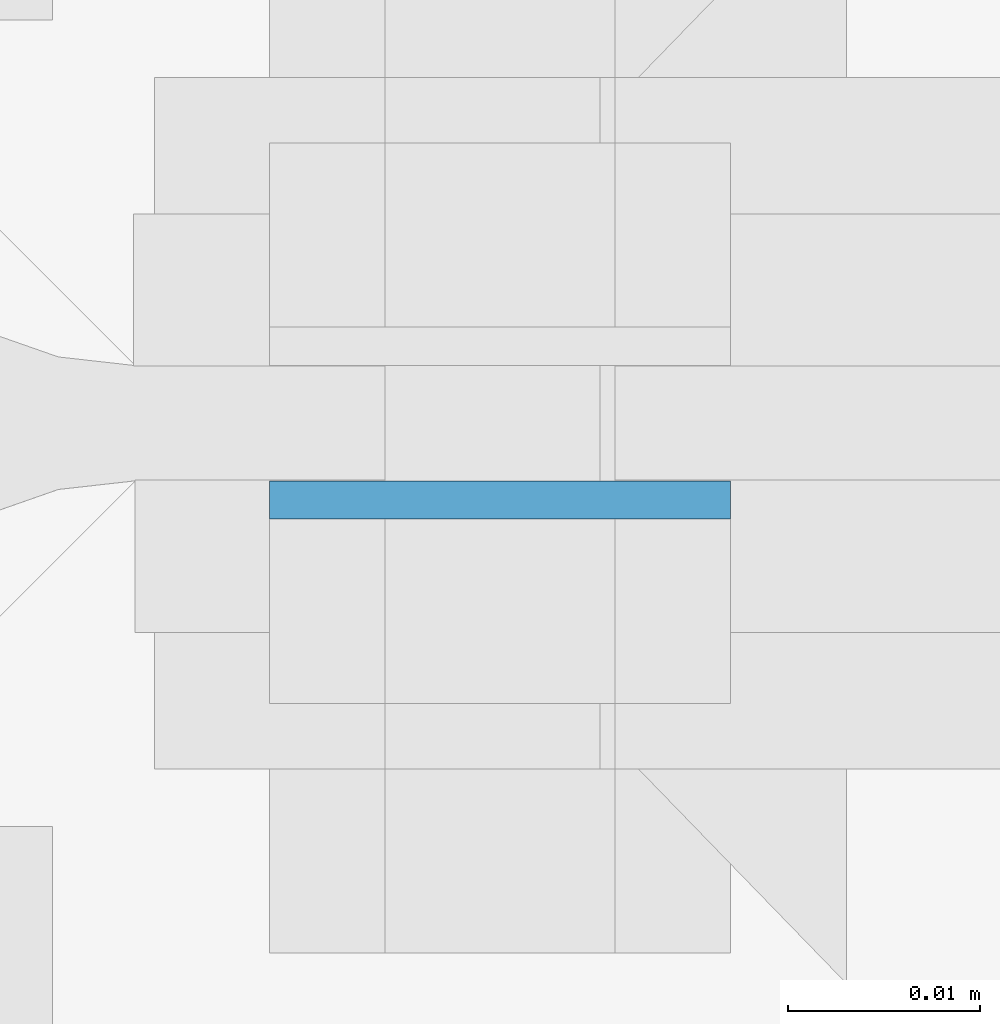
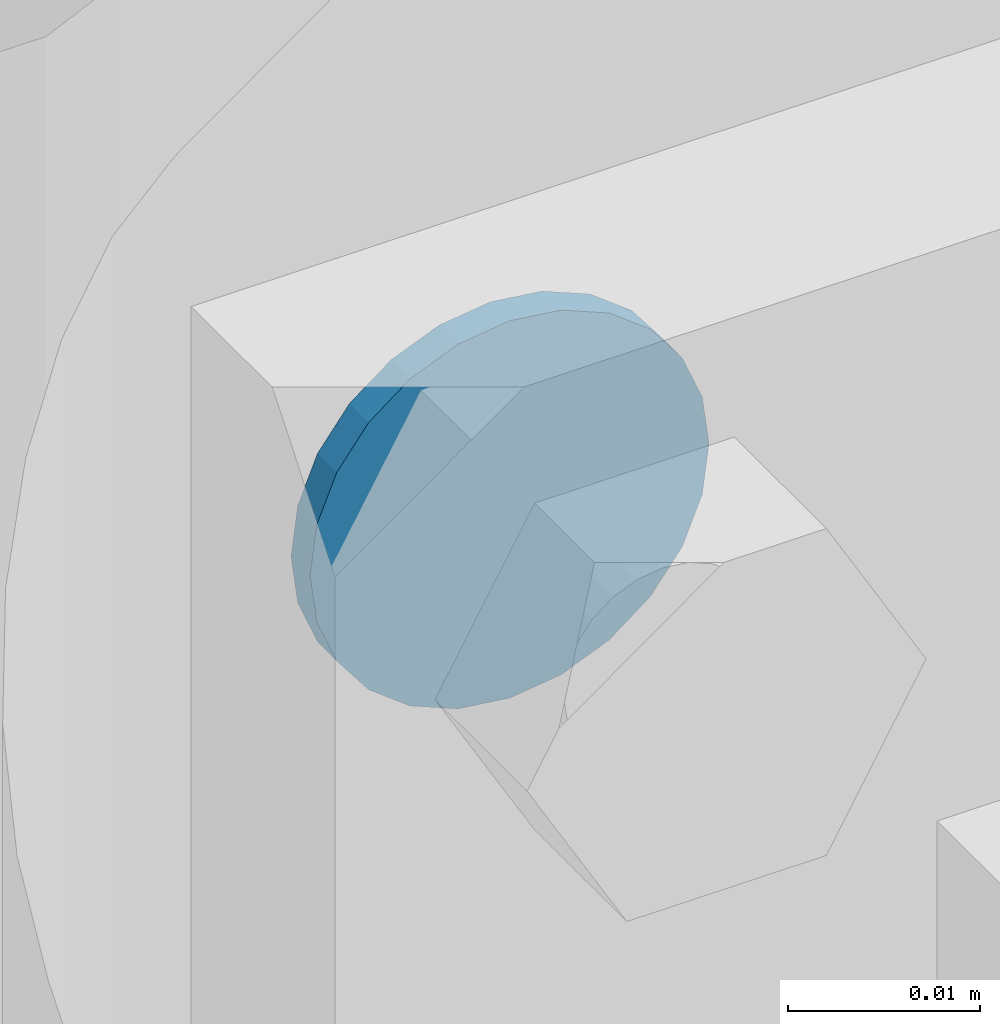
# One storey, part 183 of 251: 1 mechanical fastener.
"""IFC4 building model written with IfcOpenShell, lengths in metres."""

from ifc_helpers import new_model, si_unit, frame, origin_with_axes, place, context, project, spatial, polyline, outline, extrude, type_object, element, save


model = new_model("IFC4")

# Units and contexts
model_context = context("Model", 3, precision=1e-05, world=origin_with_axes())
ifc_project = project(units=[si_unit("LENGTHUNIT", "METRE"), si_unit("AREAUNIT", "SQUARE_METRE"), si_unit("VOLUMEUNIT", "CUBIC_METRE"), si_unit("MASSUNIT", "GRAM", prefix="KILO"), si_unit("TIMEUNIT", "SECOND"), si_unit("PLANEANGLEUNIT", "RADIAN"), si_unit("SOLIDANGLEUNIT", "STERADIAN"), si_unit("THERMODYNAMICTEMPERATUREUNIT", "DEGREE_CELSIUS")], contexts=[model_context])

# Site, building, storey
placement_1 = place(None, origin_with_axes())
site = spatial("IfcSite", under=ifc_project, at=placement_1, Name="Italia", CompositionType="ELEMENT")
building = spatial("IfcBuilding", under=site, at=placement_1, Name="Deposito", CompositionType="ELEMENT")
storey = spatial("IfcBuildingStorey", under=building, at=placement_1, Name="Storey 0", CompositionType="ELEMENT", Elevation=0.0)

# Mechanical fastener
mechanical_fastener_type = type_object("IfcMechanicalFastenerType", Name="Collegamenti -001_-002 -002_-001 -002_-003 -003_-002 -003_-004 -004_-003 -004_-008 -008_-004 -009_-010 -010_-009 -010_-011 -011_-010 -011_-012 -012_-011 -012_-016 -016_-012", PredefinedType="BOLT")
placement_2 = place(placement_1, origin_with_axes())
mechanical_fastener_placement = place(placement_2, origin_with_axes())
element("IfcMechanicalFastener", 1, at=mechanical_fastener_placement, inside=storey, type_object=mechanical_fastener_type, Name="Collegamenti -001_-002 -002_-001 -002_-003 -003_-002 -003_-004 -004_-003 -004_-008 -008_-004 -009_-010 -010_-009 -010_-011 -011_-010 -011_-012 -012_-011 -012_-016 -016_-012", NominalDiameter=0.024, context=model_context, shape_type="SweptSolid", body=[
    extrude(outline(polyline([(0.0, 0.0), (-0.000408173, -0.00310588), (-0.00160599, -0.00600004), (-0.00351334, -0.00848532), (-0.00599861, -0.0103922), (-0.00889397, -0.0115912), (-0.0119991, -0.0120001), (-0.0151043, -0.0115912), (-0.0179996, -0.0103922), (-0.0204849, -0.00848532), (-0.0223923, -0.00600004), (-0.0235901, -0.00310588), (-0.0239983, 0.0), (-0.0235901, 0.00310588), (-0.0223923, 0.00600004), (-0.0204849, 0.00848532), (-0.0179996, 0.0103922), (-0.0151043, 0.0115912), (-0.0119991, 0.0120001), (-0.00889397, 0.0115912), (-0.00599861, 0.0103922), (-0.00351334, 0.00848532), (-0.00160599, 0.00600004), (-0.000408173, 0.00310588), (0.0, 0.0)])), frame((19.94, 14.995, 3.078), z_axis=(0.0, 1.0, 0.0), x_axis=(-1.0, 0.0, 0.0)), (0.0, 0.0, 1.0), 0.00199986),
])

save(model, "model.ifc")
